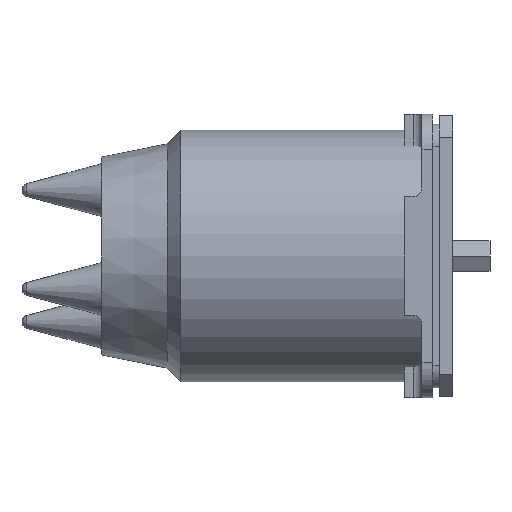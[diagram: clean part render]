
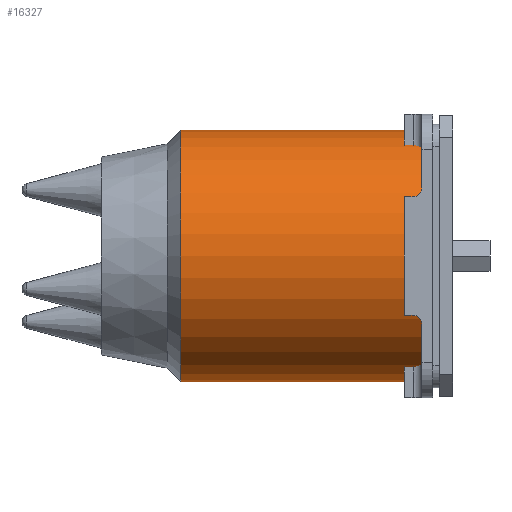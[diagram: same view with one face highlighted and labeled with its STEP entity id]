
A CAD part, left-side view. The second image highlights one B-rep face of the part: STEP entity #16327.
In plain terms, the highlighted cylindrical face has radius 28.65 mm (diameter 57.3 mm), a partial arc.
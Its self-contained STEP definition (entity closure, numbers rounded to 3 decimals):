
#400 = DIRECTION ( 'NONE',  ( 0., 0., -1. ) ) ;
#1052 = EDGE_CURVE ( 'NONE', #5280, #15083, #20283, .T. ) ;
#1727 = EDGE_CURVE ( 'NONE', #1785, #6170, #14411, .T. ) ;
#1785 = VERTEX_POINT ( 'NONE', #15998 ) ;
#1808 = DIRECTION ( 'NONE',  ( 0., -1., 0. ) ) ;
#2212 = FACE_OUTER_BOUND ( 'NONE', #7134, .T. ) ;
#2213 = ORIENTED_EDGE ( 'NONE', *, *, #12535, .T. ) ;
#2812 = CARTESIAN_POINT ( 'NONE',  ( 0., 57.35, -28.65 ) ) ;
#5280 = VERTEX_POINT ( 'NONE', #2812 ) ;
#5836 = AXIS2_PLACEMENT_3D ( 'NONE', #20725, #10561, #400 ) ;
#5949 = CARTESIAN_POINT ( 'NONE',  ( 0., 0., 28.65 ) ) ;
#6170 = VERTEX_POINT ( 'NONE', #5949 ) ;
#6880 = ORIENTED_EDGE ( 'NONE', *, *, #1052, .T. ) ;
#7134 = EDGE_LOOP ( 'NONE', ( #19875, #2213, #6880, #13528 ) ) ;
#7510 = CARTESIAN_POINT ( 'NONE',  ( 0., 0., 28.65 ) ) ;
#7720 = EDGE_CURVE ( 'NONE', #6170, #15083, #15167, .T. ) ;
#9244 = CIRCLE ( 'NONE', #5836, 28.65 ) ;
#9543 = CARTESIAN_POINT ( 'NONE',  ( 0., 0., -28.65 ) ) ;
#10182 = CYLINDRICAL_SURFACE ( 'NONE', #19174, 28.65 ) ;
#10198 = VECTOR ( 'NONE', #1808, 1000. ) ;
#10398 = AXIS2_PLACEMENT_3D ( 'NONE', #13038, #13006, #12985 ) ;
#10561 = DIRECTION ( 'NONE',  ( 0., -1., 0. ) ) ;
#10631 = DIRECTION ( 'NONE',  ( 0., 0., -1. ) ) ;
#12535 = EDGE_CURVE ( 'NONE', #1785, #5280, #9244, .T. ) ;
#12985 = DIRECTION ( 'NONE',  ( 0., 0., -1. ) ) ;
#13006 = DIRECTION ( 'NONE',  ( 0., -1., 0. ) ) ;
#13038 = CARTESIAN_POINT ( 'NONE',  ( 0., 0., 0. ) ) ;
#13415 = DIRECTION ( 'NONE',  ( 0., -1., 0. ) ) ;
#13528 = ORIENTED_EDGE ( 'NONE', *, *, #7720, .F. ) ;
#13890 = VECTOR ( 'NONE', #13415, 1000. ) ;
#13898 = CARTESIAN_POINT ( 'NONE',  ( 0., 0., 0. ) ) ;
#14411 = LINE ( 'NONE', #7510, #13890 ) ;
#15083 = VERTEX_POINT ( 'NONE', #20819 ) ;
#15167 = CIRCLE ( 'NONE', #10398, 28.65 ) ;
#15998 = CARTESIAN_POINT ( 'NONE',  ( 0., 57.35, 28.65 ) ) ;
#16327 = ADVANCED_FACE ( 'NONE', ( #2212 ), #10182, .T. ) ;
#19174 = AXIS2_PLACEMENT_3D ( 'NONE', #13898, #20790, #10631 ) ;
#19875 = ORIENTED_EDGE ( 'NONE', *, *, #1727, .F. ) ;
#20283 = LINE ( 'NONE', #9543, #10198 ) ;
#20725 = CARTESIAN_POINT ( 'NONE',  ( 0., 57.35, 0. ) ) ;
#20790 = DIRECTION ( 'NONE',  ( 0., -1., 0. ) ) ;
#20819 = CARTESIAN_POINT ( 'NONE',  ( 0., 0., -28.65 ) ) ;
